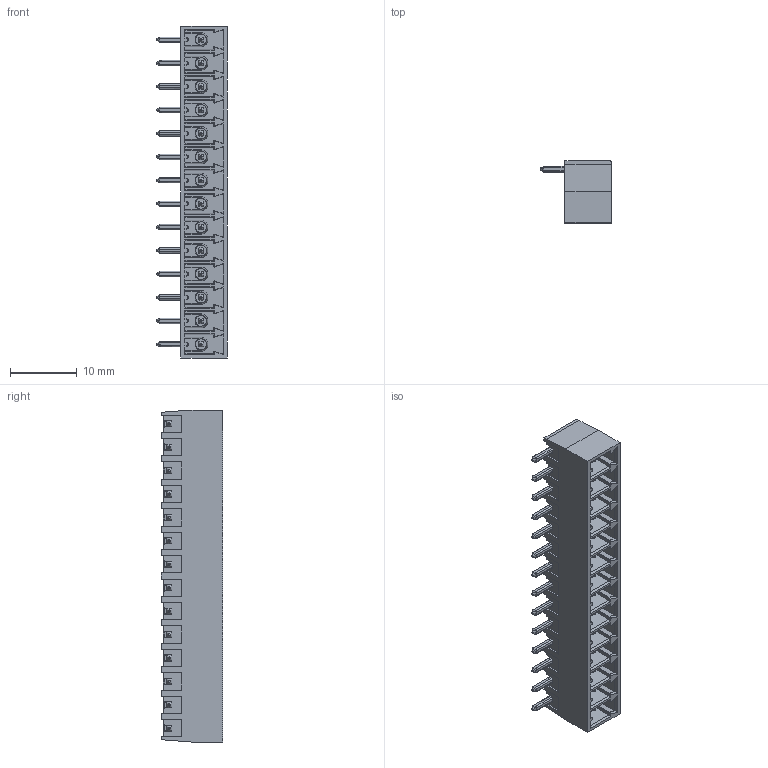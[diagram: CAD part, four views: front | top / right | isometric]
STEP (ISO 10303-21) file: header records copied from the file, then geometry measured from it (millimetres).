
FILE_DESCRIPTION (( 'STEP AP214' ), '1' );
FILE_NAME ('110-M-111-14.STEP', '2007-10-29T01:43:40', ( ' ' ), ( '' ), 'SwSTEP 2.0', 'SolidWorks 2007', '' );
FILE_SCHEMA (( 'AUTOMOTIVE_DESIGN' ));
Products named in the file (1): 110-M-111-14
Bounding box: 10.5 x 9.2 x 49.6 mm (x, y, z)
Volume: 1311.7 mm3; surface area: 4589 mm2
Topology: 1 solids, 1 shells, 2678 faces, 7514 edges, 4809 vertices
Faces by surface type: plane 1814, cylinder 661, bspline 95, cone 93, sphere 15
Entity records: 92121 total; most frequent: CARTESIAN_POINT 30326, ORIENTED_EDGE 14970, DIRECTION 9612, EDGE_CURVE 7485, VERTEX_POINT 4809, VECTOR 4014, LINE 4014, B_SPLINE_CURVE_WITH_KNOTS 3177
